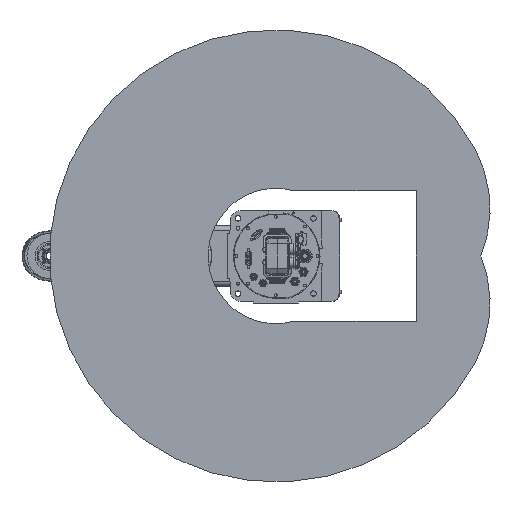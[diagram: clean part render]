
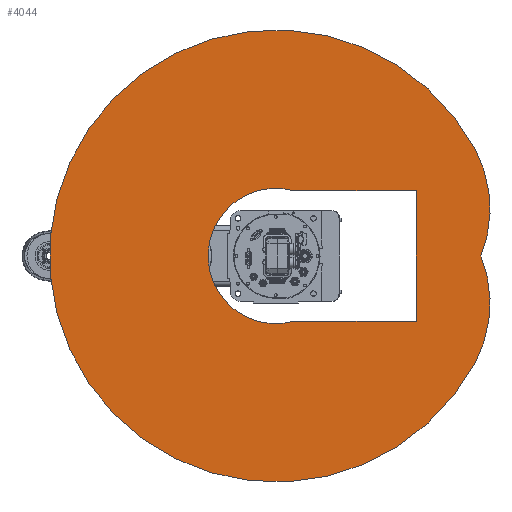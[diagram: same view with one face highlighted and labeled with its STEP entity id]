
A CAD part, front view. The second image highlights one B-rep face of the part: STEP entity #4044.
In plain terms, the highlighted planar face has unit normal (0, -1, 0).
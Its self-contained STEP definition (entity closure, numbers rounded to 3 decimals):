
#4044 = ADVANCED_FACE( '', ( #11004, #11005 ), #11006, .F. );
#11004 = FACE_OUTER_BOUND( '', #22210, .T. );
#11005 = FACE_BOUND( '', #22211, .T. );
#11006 = PLANE( '', #22212 );
#22210 = EDGE_LOOP( '', ( #35151, #35152, #35153 ) );
#22211 = EDGE_LOOP( '', ( #35154, #35155, #35156, #35157 ) );
#22212 = AXIS2_PLACEMENT_3D( '', #35158, #35159, #35160 );
#35151 = ORIENTED_EDGE( '', *, *, #60671, .F. );
#35152 = ORIENTED_EDGE( '', *, *, #60672, .F. );
#35153 = ORIENTED_EDGE( '', *, *, #60673, .F. );
#35154 = ORIENTED_EDGE( '', *, *, #60674, .T. );
#35155 = ORIENTED_EDGE( '', *, *, #60675, .T. );
#35156 = ORIENTED_EDGE( '', *, *, #60676, .T. );
#35157 = ORIENTED_EDGE( '', *, *, #60677, .T. );
#35158 = CARTESIAN_POINT( '', ( 46.947, 0., 88.295 ) );
#35159 = DIRECTION( '', ( 0., 1., 0. ) );
#35160 = DIRECTION( '', ( 0., 0., 1. ) );
#60671 = EDGE_CURVE( '', #71742, #71743, #71744, .T. );
#60672 = EDGE_CURVE( '', #71745, #71742, #71746, .T. );
#60673 = EDGE_CURVE( '', #71743, #71745, #71747, .T. );
#60674 = EDGE_CURVE( '', #71748, #71749, #71750, .T. );
#60675 = EDGE_CURVE( '', #71749, #71751, #71752, .T. );
#60676 = EDGE_CURVE( '', #71751, #71753, #71754, .T. );
#60677 = EDGE_CURVE( '', #71753, #71748, #71755, .T. );
#71742 = VERTEX_POINT( '', #88664 );
#71743 = VERTEX_POINT( '', #88665 );
#71744 = CIRCLE( '', #88666, 250. );
#71745 = VERTEX_POINT( '', #88667 );
#71746 = CIRCLE( '', #88668, 250. );
#71747 = CIRCLE( '', #88669, 450. );
#71748 = VERTEX_POINT( '', #88670 );
#71749 = VERTEX_POINT( '', #88671 );
#71750 = LINE( '', #88672, #88673 );
#71751 = VERTEX_POINT( '', #88674 );
#71752 = LINE( '', #88675, #88676 );
#71753 = VERTEX_POINT( '', #88677 );
#71754 = LINE( '', #88678, #88679 );
#71755 = CIRCLE( '', #88680, 134.76 );
#88664 = CARTESIAN_POINT( '', ( 0., 0., 408.287 ) );
#88665 = CARTESIAN_POINT( '', ( 211.262, 0., 397.326 ) );
#88666 = AXIS2_PLACEMENT_3D( '', #111561, #111562, #111563 );
#88667 = CARTESIAN_POINT( '', ( -211.262, 0., 397.326 ) );
#88668 = AXIS2_PLACEMENT_3D( '', #111564, #111565, #111566 );
#88669 = AXIS2_PLACEMENT_3D( '', #111567, #111568, #111569 );
#88670 = CARTESIAN_POINT( '', ( -130., 0., 35.5 ) );
#88671 = CARTESIAN_POINT( '', ( -130., 0., 280. ) );
#88672 = CARTESIAN_POINT( '', ( -130., 0., 0. ) );
#88673 = VECTOR( '', #111570, 1000. );
#88674 = CARTESIAN_POINT( '', ( 130., 0., 280. ) );
#88675 = CARTESIAN_POINT( '', ( -130., 0., 280. ) );
#88676 = VECTOR( '', #111571, 1000. );
#88677 = CARTESIAN_POINT( '', ( 130., 0., 35.5 ) );
#88678 = CARTESIAN_POINT( '', ( 130., 0., 280. ) );
#88679 = VECTOR( '', #111572, 1000. );
#88680 = AXIS2_PLACEMENT_3D( '', #111573, #111574, #111575 );
#111561 = CARTESIAN_POINT( '', ( 93.894, 0., 176.59 ) );
#111562 = DIRECTION( '', ( 0., 1., 0. ) );
#111563 = DIRECTION( '', ( 1., 0., 0. ) );
#111564 = CARTESIAN_POINT( '', ( -93.894, 0., 176.59 ) );
#111565 = DIRECTION( '', ( 0., 1., 0. ) );
#111566 = DIRECTION( '', ( 1., 0., 0. ) );
#111567 = CARTESIAN_POINT( '', ( 0., 0., 0. ) );
#111568 = DIRECTION( '', ( 0., 1., 0. ) );
#111569 = DIRECTION( '', ( 1., 0., 0. ) );
#111570 = DIRECTION( '', ( 0., 0., 1. ) );
#111571 = DIRECTION( '', ( 1., 0., 0. ) );
#111572 = DIRECTION( '', ( 0., 0., -1. ) );
#111573 = CARTESIAN_POINT( '', ( 0., 0., 0. ) );
#111574 = DIRECTION( '', ( 0., 1., 0. ) );
#111575 = DIRECTION( '', ( 1., 0., 0. ) );
